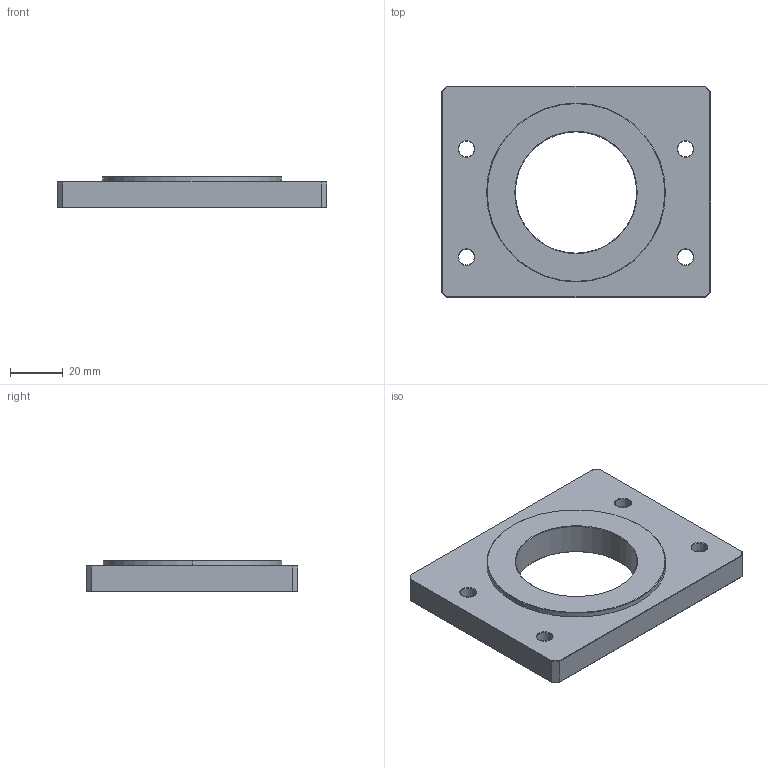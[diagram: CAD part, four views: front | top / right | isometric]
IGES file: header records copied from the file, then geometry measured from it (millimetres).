
Start section:  PTC IGES file: MI80.igs
Global section: file name: MI80.igs; native system: Pro/ENGINEER by Parametric Technology Corporation; preprocessor: 2009440; author: Owner; organization: Unknown; date: 20170523.155452; units: millimetre
Bounding box: 102 x 80 x 12 mm (x, y, z)
Surface area: 19462 mm2 (no closed solid volume)
Topology: 0 solids, 0 shells, 81 faces, 352 edges, 352 vertices
Faces by surface type: revolution 50, bspline 31
